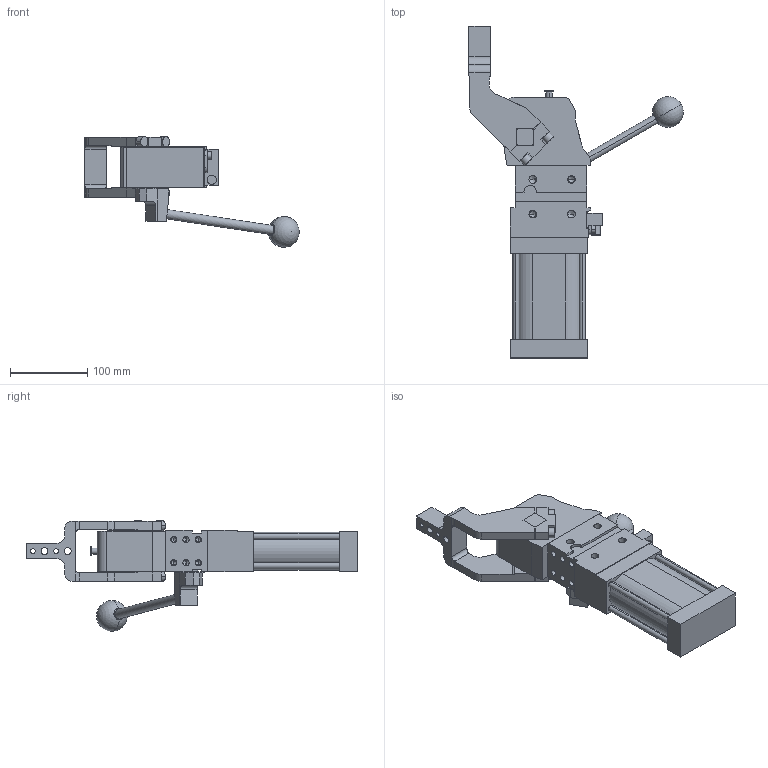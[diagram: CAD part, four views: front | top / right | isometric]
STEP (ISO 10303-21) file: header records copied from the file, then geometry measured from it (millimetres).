
FILE_DESCRIPTION (( 'STEP AP214' ), '1' );
FILE_NAME ('cplm63lbh3ci1g_107.STEP', '2023-01-26T14:56:55', ( '' ), ( '' ), 'SwSTEP 2.0', 'SolidWorks 2022', '' );
FILE_SCHEMA (( 'AUTOMOTIVE_DESIGN' ));
Length unit declared in the file: millimetre
Products named in the file (5): comando_manuale_cplm_63; cplm63lbh3ci1g_107; blocchetto_VEP_0; leva_cx_offset_45_cpl63; meccanica_cplm_63
Assembly tree (4 placements, depth 2):
  cplm63lbh3ci1g_107
    meccanica_cplm_63
    blocchetto_VEP_0
    leva_cx_offset_45_cpl63
    comando_manuale_cplm_63
Bounding box: 277.96 x 430.5 x 143.5 mm (x, y, z)
Volume: 1879230.1 mm3; surface area: 210274.1 mm2
Topology: 4 solids, 4 shells, 432 faces, 1134 edges, 703 vertices
Faces by surface type: plane 219, cylinder 161, cone 50, sphere 2
Entity records: 14579 total; most frequent: DIRECTION 2315, CARTESIAN_POINT 2298, ORIENTED_EDGE 2166, EDGE_CURVE 1083, AXIS2_PLACEMENT_3D 799, VECTOR 717, LINE 717, VERTEX_POINT 700
